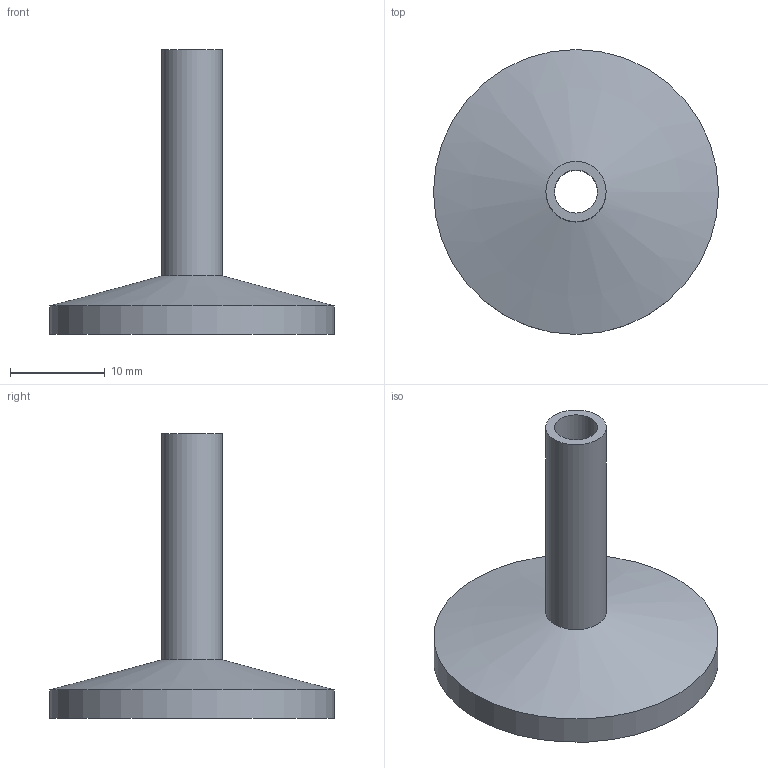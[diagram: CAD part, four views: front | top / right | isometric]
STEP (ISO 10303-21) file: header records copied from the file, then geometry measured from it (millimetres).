
FILE_DESCRIPTION( ( 'Unknown' ), '1' );
FILE_NAME( 'X:/Daten ( aktueller Bestand )/Projekte und Zeichnungen/Solid Edge/2 Bauteile KF/VA/KF mit Rohransatz VA kurz/zöllig/1520-34Z.stp', 'Unknown', ( 'Unknown' ), ( 'Unknown' ), 'PSStep 14.0', 'Unknown', ' ' );
FILE_SCHEMA( ( 'AUTOMOTIVE_DESIGN { 1 0 10303 214 1 1 1 1 }' ) );
Length unit declared in the file: millimetre
Products named in the file (1): 1
Bounding box: 30 x 30 x 30 mm (x, y, z)
Volume: 3077.9 mm3; surface area: 2650.6 mm2
Topology: 1 solids, 1 shells, 8 faces, 13 edges, 8 vertices
Faces by surface type: cylinder 4, plane 3, cone 1
Full cylindrical faces by diameter (mm): 4.53 x1, 6.35 x1, 12.2 x1, 30 x1
Entity records: 248 total; most frequent: DIRECTION 34, CARTESIAN_POINT 25, AXIS2_PLACEMENT_3D 17, EDGE_LOOP 16, ORIENTED_EDGE 16, FACE_OUTER_BOUND 12, STYLED_ITEM 8, PRESENTATION_STYLE_ASSIGNMENT 8
